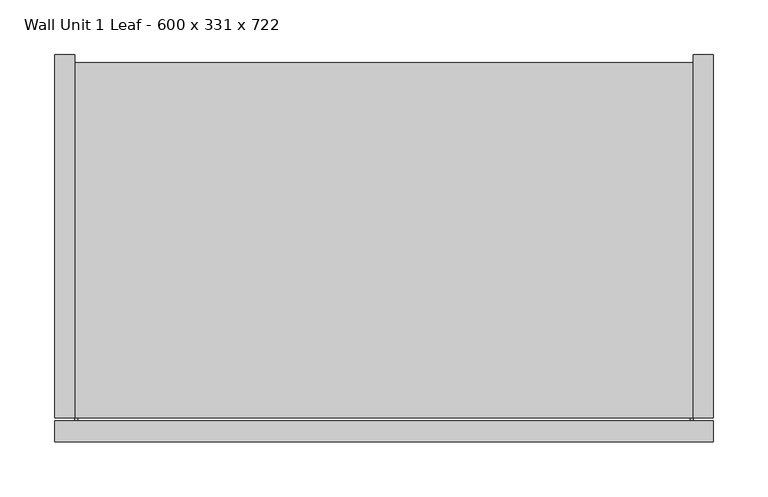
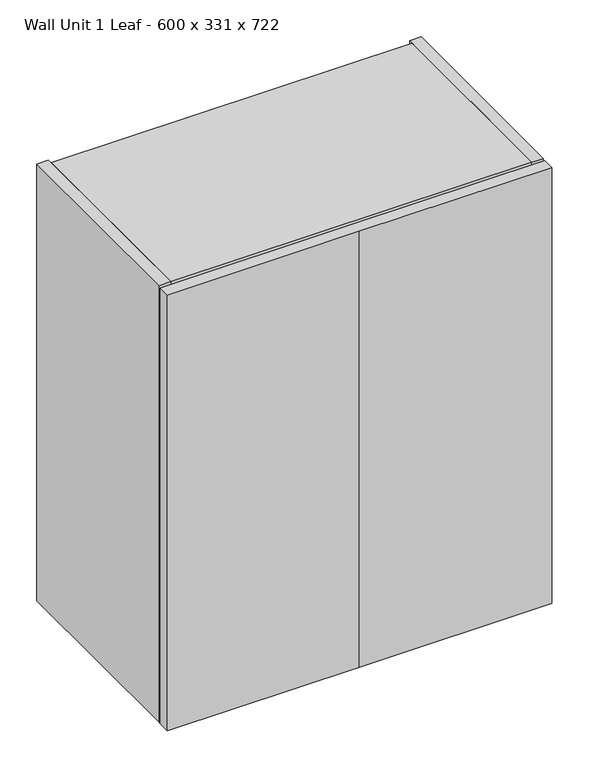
"""IFC4 building model written with IfcOpenShell, lengths in millimetres: furniture geometry, Furniture_Other-Furniture_Molteni&C_Prime_Wall-Unit-SP-1-Leaf_331mm : Wall Unit 1 Leaf - 600 x 331 x 722."""

from ifc_helpers import new_model, si_unit, frame, origin, origin_with_axes, place, context, project, spatial, polyline, circle_curve, outline, extrude, faceted_brep, source, transform, mapped, element, save
from ifc_brep_helpers import plane_surface, cylinder_surface, advanced_brep


def wall_unit_1_leaf_600_x_331_x_722_7ddda7a9(model_context):
    return source(origin(), model_context, "Body", "SolidModel", [
        advanced_brep(
        [(282.0, -143.5, 0.0), (282.0, 150.0, 0.0), (282.0, 150.0, 22.0), (282.0, 145.5, 22.0), (282.0, 145.5, 17.0), (282.0, 137.5, 17.0), (282.0, 137.5, 22.0), (282.0, -165.5, 22.0), (282.0, -165.5, 21.0), (282.0, -165.5, 16.0), (282.0, -165.5, 15.0), (282.0, -143.5, 15.0), (-282.0, -143.5, 0.0), (-282.0, -143.5, 15.0), (-282.0, -165.5, 15.0), (-282.0, -165.5, 16.0), (-282.0, -165.5, 21.0), (-282.0, -165.5, 22.0), (-282.0, 137.5, 22.0), (-282.0, 137.5, 17.0), (-282.0, 145.5, 17.0), (-282.0, 145.5, 22.0), (-282.0, 150.0, 22.0), (-282.0, 150.0, 0.0), (-279.1557889, -165.5, 21.0), (-279.1557889, -165.5, 16.0), (279.0123099, -165.5, 16.0), (279.0123099, -165.5, 21.0)],
        [
            (0, 1),
            (1, 2),
            (2, 3),
            (3, 4),
            (4, 5),
            (5, 6),
            (6, 7),
            (7, 8),
            (8, 9, circle_curve(frame((282.0, -165.5, 18.5), z_axis=(1.0, 0.0, 0.0), x_axis=(0.0, 1.0, 0.0)), 2.5)),
            (9, 10),
            (10, 11),
            (11, 0),
            (12, 13),
            (13, 14),
            (14, 15),
            (15, 16, circle_curve(frame((-282.0, -165.5, 18.5), z_axis=(-1.0, 0.0, 0.0), x_axis=(0.0, 1.0, 0.0)), 2.5)),
            (16, 17),
            (17, 18),
            (18, 19),
            (19, 20),
            (20, 21),
            (21, 22),
            (22, 23),
            (23, 12),
            (0, 12),
            (23, 1),
            (22, 2),
            (21, 3),
            (20, 4),
            (19, 5),
            (18, 6),
            (17, 7),
            (16, 24),
            (24, 25),
            (25, 15),
            (14, 10),
            (9, 26),
            (26, 27),
            (27, 8),
            (13, 11),
            (24, 25, circle_curve(frame((-279.1557889, -165.5, 18.5), z_axis=(1.0, 0.0, 0.0), x_axis=(0.0, 1.0, 0.0)), 2.5)),
            (26, 27, circle_curve(frame((279.0123099, -165.5, 18.5), z_axis=(-1.0, 0.0, 0.0), x_axis=(0.0, 1.0, 0.0)), 2.5)),
        ],
        [
            plane_surface(frame((282.0, 150.0, 0.0), z_axis=(1.0, 0.0, 0.0), x_axis=(0.0, 1.0, 0.0))),
            plane_surface(frame((-282.0, 150.0, 0.0), z_axis=(-1.0, 0.0, 0.0), x_axis=(0.0, -1.0, 0.0))),
            plane_surface(frame((282.0, -143.5, 0.0), z_axis=(0.0, 0.0, -1.0), x_axis=(-1.0, 0.0, 0.0))),
            plane_surface(frame((282.0, 150.0, 0.0), z_axis=(0.0, 1.0, 0.0), x_axis=(-1.0, 0.0, 0.0))),
            plane_surface(frame((282.0, 150.0, 22.0), z_axis=(0.0, 0.0, 1.0), x_axis=(-1.0, 0.0, 0.0))),
            plane_surface(frame((282.0, 145.5, 22.0), z_axis=(0.0, -1.0, 0.0), x_axis=(-1.0, 0.0, 0.0))),
            plane_surface(frame((282.0, 145.5, 17.0), z_axis=(0.0, 0.0, 1.0), x_axis=(-1.0, 0.0, 0.0))),
            plane_surface(frame((282.0, 137.5, 17.0), z_axis=(0.0, 1.0, 0.0), x_axis=(-1.0, 0.0, 0.0))),
            plane_surface(frame((282.0, 137.5, 22.0), z_axis=(0.0, 0.0, 1.0), x_axis=(-1.0, 0.0, 0.0))),
            plane_surface(frame((282.0, -165.5, 22.0), z_axis=(0.0, -1.0, 0.0), x_axis=(-1.0, 0.0, 0.0))),
            plane_surface(frame((282.0, -165.5, 15.0), z_axis=(0.0, 0.0, -1.0), x_axis=(-1.0, 0.0, 0.0))),
            plane_surface(frame((282.0, -143.5, 15.0), z_axis=(0.0, -1.0, 0.0), x_axis=(-1.0, 0.0, 0.0))),
            plane_surface(frame((-279.1557889, -165.5, 16.0), z_axis=(1.0, 0.0, 0.0), x_axis=(0.0, 0.0, 1.0))),
            cylinder_surface(frame((-282.0, -165.5, 18.5), z_axis=(1.0, 0.0, 0.0), x_axis=(0.0, 1.0, 0.0)), 2.5),
            plane_surface(frame((279.0123099, -163.0, 18.5), z_axis=(-1.0, 0.0, 0.0), x_axis=(0.0, 0.0, -1.0))),
            cylinder_surface(frame((282.0, -165.5, 18.5), z_axis=(-1.0, 0.0, 0.0), x_axis=(0.0, 1.0, 0.0)), 2.5),
        ],
        [
            (0, [[1, 2, 3, 4, 5, 6, 7, 8, 9, 10, 11, 12]]),
            (1, [[13, 14, 15, 16, 17, 18, 19, 20, 21, 22, 23, 24]]),
            (2, [[-1, 25, -24, 26]]),
            (3, [[-2, -26, -23, 27]]),
            (4, [[-3, -27, -22, 28]]),
            (5, [[-4, -28, -21, 29]]),
            (6, [[-5, -29, -20, 30]]),
            (7, [[-6, -30, -19, 31]]),
            (8, [[-7, -31, -18, 32]]),
            (9, [[-32, -17, 33, 34, 35, -15, 36, -10, 37, 38, 39, -8]]),
            (10, [[-11, -36, -14, 40]]),
            (11, [[-12, -40, -13, -25]]),
            (12, [[41, -34]]),
            (13, [[-41, -33, -16, -35]]),
            (14, [[42, -38]]),
            (15, [[-9, -39, -42, -37]]),
        ],
    ),
        faceted_brep([(-300.0, -165.5, 722.0), (-282.0, -165.5, 722.0), (-282.0, 165.5, 722.0), (-300.0, 165.5, 722.0), (-300.0, -165.5, 0.0), (-300.0, 165.5, 0.0), (-282.0, 165.5, 0.0), (-282.0, -165.5, 0.0), (-282.0, 137.5, 17.0), (-282.0, 137.5, 704.0), (-282.0, 145.5, 704.0), (-282.0, 145.5, 17.0), (300.0, -165.5, 722.0), (300.0, 165.5, 722.0), (282.0, 165.5, 722.0), (282.0, -165.5, 722.0), (300.0, -165.5, 0.0), (282.0, -165.5, 0.0), (282.0, 165.5, 0.0), (300.0, 165.5, 0.0), (282.0, 137.5, 704.0), (282.0, 137.5, 17.0), (282.0, 145.5, 17.0), (282.0, 145.5, 704.0)], [[[0, 1, 2, 3]], [[4, 5, 6, 7]], [[1, 0, 4, 7]], [[2, 1, 7, 6], [8, 9, 10, 11]], [[3, 2, 6, 5]], [[0, 3, 5, 4]], [[12, 13, 14, 15]], [[16, 17, 18, 19]], [[12, 15, 17, 16]], [[15, 14, 18, 17], [20, 21, 22, 23]], [[14, 13, 19, 18]], [[13, 12, 16, 19]], [[20, 9, 8, 21]], [[21, 8, 11, 22]], [[22, 11, 10, 23]], [[9, 20, 23, 10]]]),
        extrude(outline(polyline([(282.0, 137.5), (282.0, -165.5), (-282.0, -165.5), (-282.0, 137.5), (282.0, 137.5)])), frame((0.0, 0.0, 350.0), z_axis=(0.0, 0.0, 1.0), x_axis=(1.0, 0.0, 0.0)), (0.0, 0.0, 1.0), 22.0),
        extrude(outline(polyline([(-165.5, 722.0), (158.5, 722.0), (158.5, 700.0), (145.5, 700.0), (145.5, 704.0), (137.5, 704.0), (137.5, 700.0), (-165.5, 700.0), (-165.5, 722.0)])), frame((-282.0, 0.0, 0.0), z_axis=(1.0, 0.0, 0.0), x_axis=(0.0, 1.0, 0.0)), (0.0, 0.0, 1.0), 564.0),
        extrude(outline(polyline([(-0.3822432, -187.5), (-300.0, -187.5), (-300.0, -168.5), (-1.6098784, -168.5), (300.0, -168.5), (300.0, -187.5), (-0.3822432, -187.5)])), origin_with_axes(), (0.0, 0.0, 1.0), 719.9973284),
    ])


if __name__ == "__main__":
    model = new_model("IFC4")
    model_context = context("Model", 3, world=origin())
    ifc_project = project(units=[si_unit("LENGTHUNIT", "METRE", prefix="MILLI")], contexts=[model_context])
    site = spatial("IfcSite", under=ifc_project)
    building = spatial("IfcBuilding", under=site)
    placement = place(None, origin())
    wall_unit_1_leaf_600_x_331_x_722_shape = wall_unit_1_leaf_600_x_331_x_722_7ddda7a9(model_context)
    element("IfcFurniture", 1, ObjectType="Furniture_Other-Furniture_Molteni&C_Prime_Wall-Unit-SP-1-Leaf_331mm : Wall Unit 1 Leaf - 600 x 331 x 722", at=placement, inside=building, context=model_context, shape_type="MappedRepresentation", body=[
        mapped(wall_unit_1_leaf_600_x_331_x_722_shape, transform((0.0, 0.0, 0.0), x_axis=(1.0, 0.0, 0.0), y_axis=(0.0, 1.0, 0.0), z_axis=(0.0, 0.0, 1.0))),
    ])
    save(model, "model.ifc")
